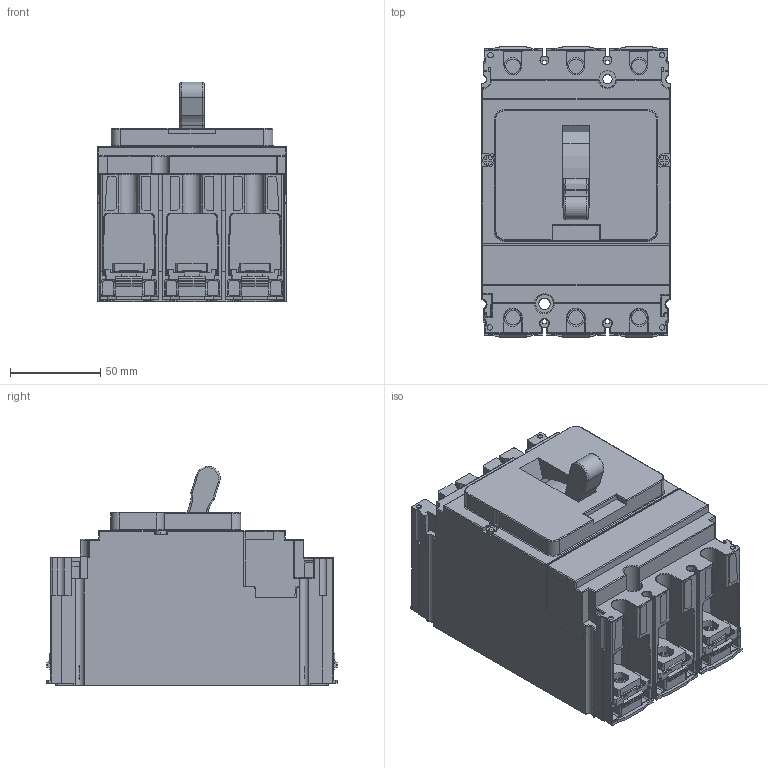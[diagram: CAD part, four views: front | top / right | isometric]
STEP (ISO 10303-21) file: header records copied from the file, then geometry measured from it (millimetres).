
FILE_DESCRIPTION((''),'2;1');
FILE_NAME('C25W32D250_3D_SIMPLIFIED_ASM','2020-12-11T14:33:54',('user'),('Schneider-Electric'),'CREO PARAMETRIC BY PTC INC, 2018300','CREO PARAMETRIC BY PTC INC, 2018300','');
FILE_SCHEMA(('CONFIG_CONTROL_DESIGN'));
Length unit declared in the file: millimetre
Products named in the file (2): C25W32D250_3D-SIMPLIFIED; C25W32D250_3D_SIMPLIFIED_ASM
Assembly tree (1 placements, depth 2):
  C25W32D250_3D_SIMPLIFIED_ASM
    C25W32D250_3D-SIMPLIFIED
Bounding box: 104.73 x 161.24 x 121.91 mm (x, y, z)
Volume: 1213282.7 mm3; surface area: 143685 mm2
Topology: 1 solids, 5 shells, 1791 faces, 5077 edges, 3288 vertices
Faces by surface type: plane 1003, cylinder 613, torus 147, bspline 11, sphere 10, extrusion 7
Entity records: 59555 total; most frequent: CARTESIAN_POINT 12286, ORIENTED_EDGE 10134, DIRECTION 9780, EDGE_CURVE 5067, VECTOR 3360, LINE 3353, VERTEX_POINT 3288, AXIS2_PLACEMENT_3D 3210
